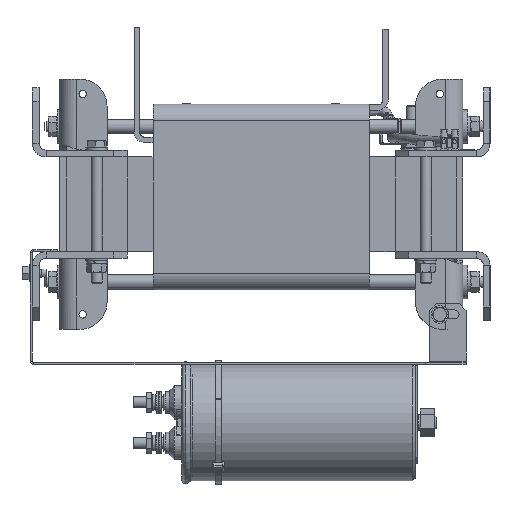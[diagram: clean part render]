
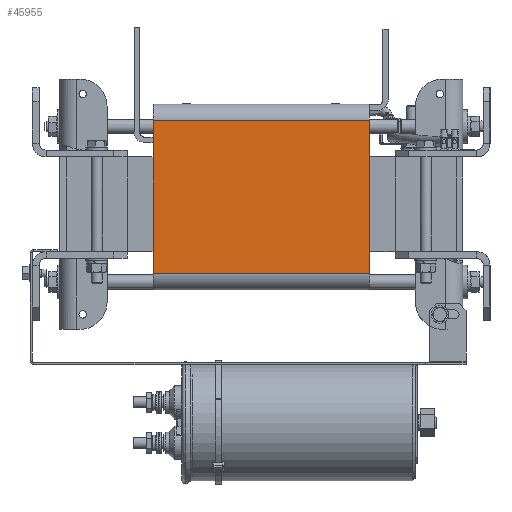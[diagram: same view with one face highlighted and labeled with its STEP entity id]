
A CAD part, left-side view. The second image highlights one B-rep face of the part: STEP entity #45955.
In plain terms, the highlighted planar face has unit normal (-1, 0, 0).
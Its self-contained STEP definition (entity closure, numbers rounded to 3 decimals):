
#2640=PLANE('',#49675);
#4679=FACE_OUTER_BOUND('',#7330,.T.);
#7330=EDGE_LOOP('',(#37540,#37541,#37542,#37543));
#11000=LINE('',#75660,#14873);
#11006=LINE('',#75679,#14879);
#11014=LINE('',#75696,#14887);
#11015=LINE('',#75698,#14888);
#14873=VECTOR('',#59579,10.);
#14879=VECTOR('',#59595,10.);
#14887=VECTOR('',#59613,10.);
#14888=VECTOR('',#59616,10.);
#21064=VERTEX_POINT('',#75657);
#21065=VERTEX_POINT('',#75659);
#21072=VERTEX_POINT('',#75676);
#21073=VERTEX_POINT('',#75678);
#26824=EDGE_CURVE('',#21064,#21065,#11000,.T.);
#26834=EDGE_CURVE('',#21072,#21073,#11006,.T.);
#26844=EDGE_CURVE('',#21073,#21064,#11014,.T.);
#26845=EDGE_CURVE('',#21072,#21065,#11015,.T.);
#37540=ORIENTED_EDGE('',*,*,#26844,.F.);
#37541=ORIENTED_EDGE('',*,*,#26834,.F.);
#37542=ORIENTED_EDGE('',*,*,#26845,.T.);
#37543=ORIENTED_EDGE('',*,*,#26824,.F.);
#45955=ADVANCED_FACE('',(#4679),#2640,.T.);
#49675=AXIS2_PLACEMENT_3D('',#75697,#59614,#59615);
#59579=DIRECTION('',(0.,0.,-1.));
#59595=DIRECTION('',(0.,0.,1.));
#59613=DIRECTION('',(0.,-1.,0.));
#59614=DIRECTION('center_axis',(-1.,0.,0.));
#59615=DIRECTION('ref_axis',(0.,0.,1.));
#59616=DIRECTION('',(0.,-1.,0.));
#75657=CARTESIAN_POINT('',(-200.63,-80.,61.754));
#75659=CARTESIAN_POINT('',(-200.63,-80.,-51.254));
#75660=CARTESIAN_POINT('',(-200.63,-80.,61.754));
#75676=CARTESIAN_POINT('',(-200.63,80.,-51.254));
#75678=CARTESIAN_POINT('',(-200.63,80.,61.754));
#75679=CARTESIAN_POINT('',(-200.63,80.,61.754));
#75696=CARTESIAN_POINT('',(-200.63,0.,61.754));
#75697=CARTESIAN_POINT('Origin',(-200.63,0.,-51.254));
#75698=CARTESIAN_POINT('',(-200.63,0.,-51.254));
